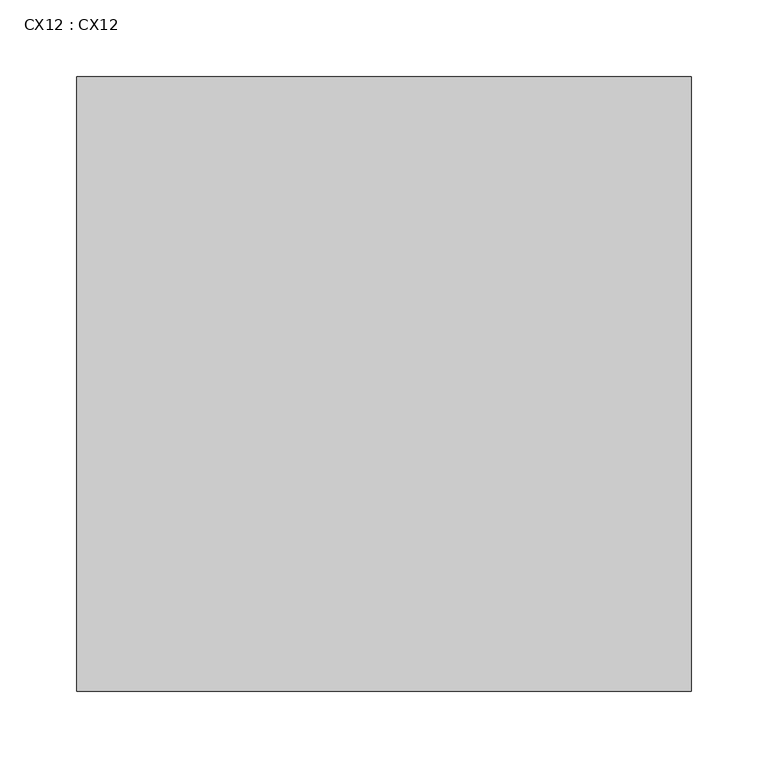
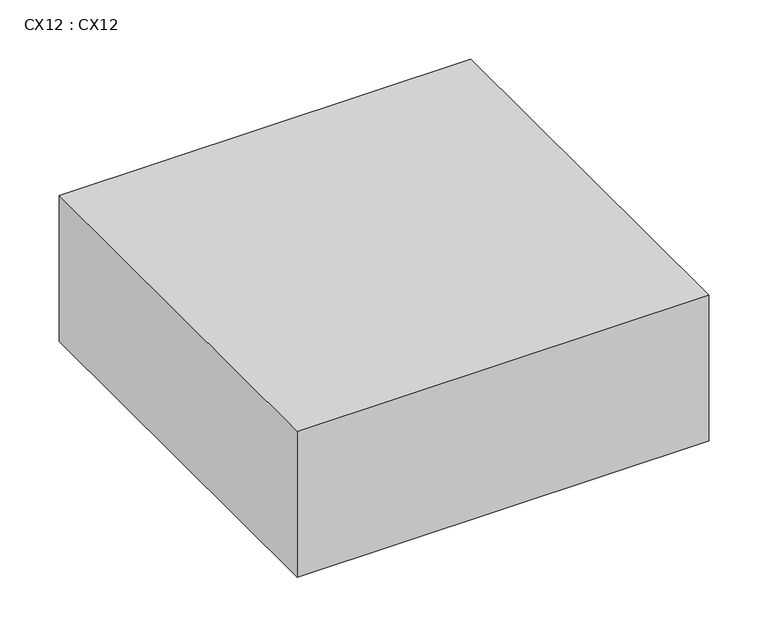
"""IFC4 building model written with IfcOpenShell, lengths in millimetres: proxy geometry, CX12 : CX12."""

from ifc_helpers import new_model, si_unit, frame, origin, place, context, project, spatial, polyline, outline, extrude, source, transform, mapped, element, save


def cx12_cx12_821e8d5a(model_context):
    return source(origin(), model_context, "Body", "SweptSolid", [
        extrude(outline(polyline([(25475.3, 14966.3), (25875.3, 14966.3), (25875.3, 14566.3), (25475.3, 14566.3), (25475.3, 14966.3)])), frame((0.0, 0.0, 2870.0), z_axis=(0.0, 0.0, 1.0), x_axis=(1.0, 0.0, 0.0)), (0.0, 0.0, 1.0), 150.0),
    ])


if __name__ == "__main__":
    model = new_model("IFC4")
    model_context = context("Model", 3, world=origin())
    ifc_project = project(units=[si_unit("LENGTHUNIT", "METRE", prefix="MILLI")], contexts=[model_context])
    site = spatial("IfcSite", under=ifc_project)
    building = spatial("IfcBuilding", under=site)
    placement = place(None, origin())
    cx12_cx12_shape = cx12_cx12_821e8d5a(model_context)
    element("IfcBuildingElementProxy", 1, Name="CX12 : CX12", ObjectType="CX12 : CX12", at=placement, inside=building, context=model_context, shape_type="MappedRepresentation", body=[
        mapped(cx12_cx12_shape, transform((0.0, 0.0, 0.0), x_axis=(1.0, 0.0, 0.0), y_axis=(0.0, 1.0, 0.0), z_axis=(0.0, 0.0, 1.0))),
    ])
    save(model, "model.ifc")
